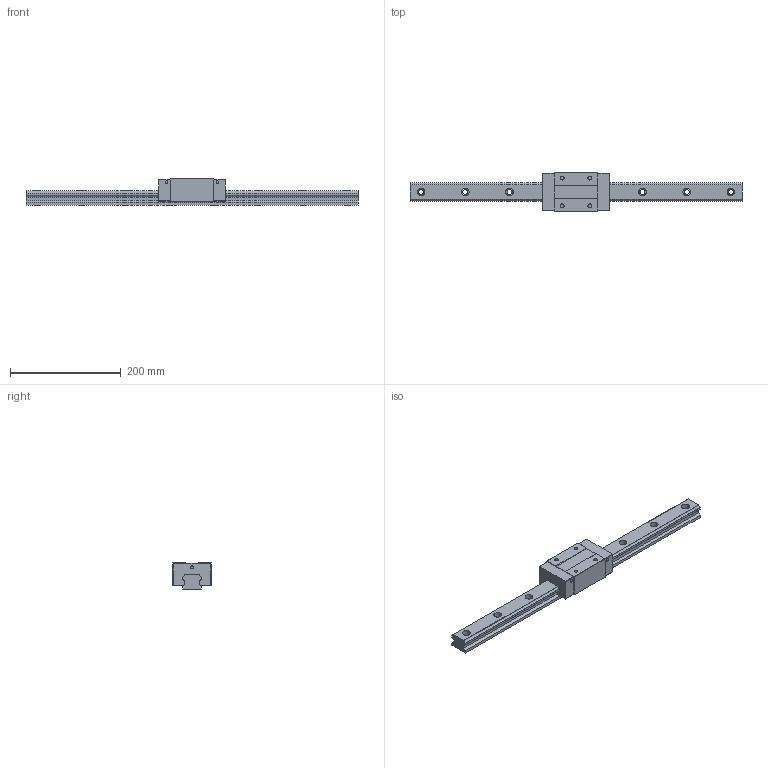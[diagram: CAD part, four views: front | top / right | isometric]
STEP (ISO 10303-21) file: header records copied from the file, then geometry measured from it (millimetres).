
FILE_DESCRIPTION (( 'STEP AP203' ), '1' );
FILE_NAME ('TRS35VN-WW.STEP', '2024-05-24T01:46:52', ( '' ), ( '' ), 'SwSTEP 2.0', 'SolidWorks 2022', '' );
FILE_SCHEMA (( 'CONFIG_CONTROL_DESIGN' ));
Length unit declared in the file: millimetre
Products named in the file (1): TRS35VN-WW
Bounding box: 600 x 70 x 48 mm (x, y, z)
Volume: 714794.8 mm3; surface area: 119681.6 mm2
Topology: 2 solids, 2 shells, 178 faces, 464 edges, 308 vertices
Faces by surface type: plane 90, cylinder 88
Entity records: 5619 total; most frequent: DIRECTION 998, CARTESIAN_POINT 951, ORIENTED_EDGE 928, EDGE_CURVE 464, AXIS2_PLACEMENT_3D 355, VERTEX_POINT 308, VECTOR 288, LINE 288
